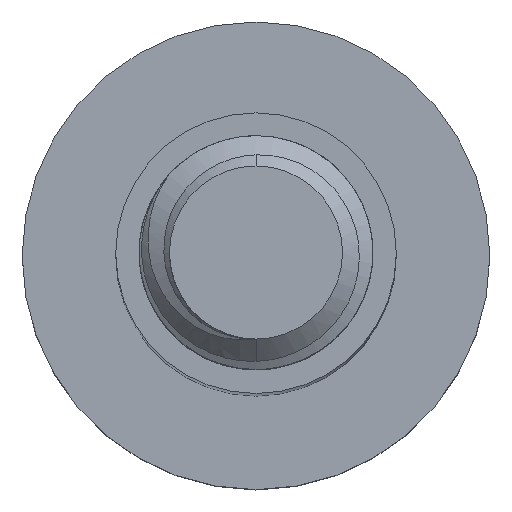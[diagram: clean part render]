
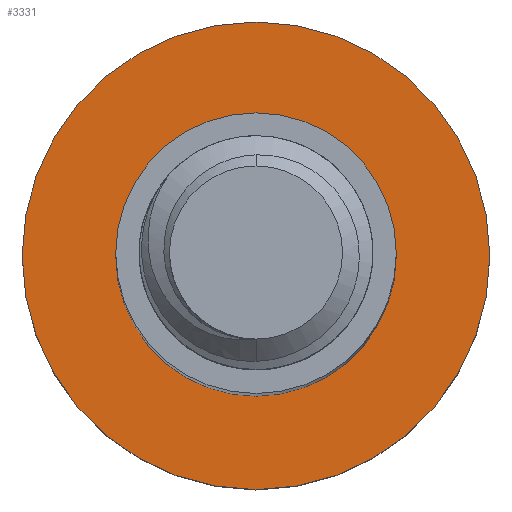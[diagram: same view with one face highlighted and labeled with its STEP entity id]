
A CAD part, top view. The second image highlights one B-rep face of the part: STEP entity #3331.
In plain terms, the highlighted planar face has unit normal (0, 0, 1).
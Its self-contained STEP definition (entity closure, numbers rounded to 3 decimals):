
#34 = CIRCLE ( 'NONE', #2852, 6. ) ;
#37 = VERTEX_POINT ( 'NONE', #1743 ) ;
#76 = ORIENTED_EDGE ( 'NONE', *, *, #1954, .F. ) ;
#117 = EDGE_LOOP ( 'NONE', ( #2365, #3020 ) ) ;
#230 = CARTESIAN_POINT ( 'NONE',  ( 0., 0., -65. ) ) ;
#293 = CARTESIAN_POINT ( 'NONE',  ( 0., 0., -65. ) ) ;
#428 = DIRECTION ( 'NONE',  ( -1., 0., 0. ) ) ;
#467 = EDGE_CURVE ( 'NONE', #624, #594, #2042, .T. ) ;
#487 = AXIS2_PLACEMENT_3D ( 'NONE', #230, #2464, #1341 ) ;
#559 = DIRECTION ( 'NONE',  ( -1., 0., 0. ) ) ;
#594 = VERTEX_POINT ( 'NONE', #2141 ) ;
#624 = VERTEX_POINT ( 'NONE', #2805 ) ;
#717 = DIRECTION ( 'NONE',  ( 0., 0., -1. ) ) ;
#766 = EDGE_LOOP ( 'NONE', ( #2712, #76 ) ) ;
#923 = CIRCLE ( 'NONE', #2300, 10. ) ;
#1015 = EDGE_CURVE ( 'NONE', #3118, #37, #34, .T. ) ;
#1207 = FACE_OUTER_BOUND ( 'NONE', #766, .T. ) ;
#1341 = DIRECTION ( 'NONE',  ( -1., 0., 0. ) ) ;
#1466 = DIRECTION ( 'NONE',  ( 0., 0., -1. ) ) ;
#1540 = CARTESIAN_POINT ( 'NONE',  ( 0., 0., -65. ) ) ;
#1609 = CIRCLE ( 'NONE', #1719, 6. ) ;
#1719 = AXIS2_PLACEMENT_3D ( 'NONE', #293, #2470, #559 ) ;
#1743 = CARTESIAN_POINT ( 'NONE',  ( -6., 0., -65. ) ) ;
#1767 = DIRECTION ( 'NONE',  ( -1., 0., 0. ) ) ;
#1954 = EDGE_CURVE ( 'NONE', #594, #624, #923, .T. ) ;
#2042 = CIRCLE ( 'NONE', #487, 10. ) ;
#2141 = CARTESIAN_POINT ( 'NONE',  ( -10., 0., -65. ) ) ;
#2252 = CARTESIAN_POINT ( 'NONE',  ( 0., 0., -65. ) ) ;
#2300 = AXIS2_PLACEMENT_3D ( 'NONE', #2252, #3033, #2490 ) ;
#2316 = PLANE ( 'NONE',  #2651 ) ;
#2365 = ORIENTED_EDGE ( 'NONE', *, *, #2657, .T. ) ;
#2392 = CARTESIAN_POINT ( 'NONE',  ( 6., 0., -65. ) ) ;
#2464 = DIRECTION ( 'NONE',  ( 0., 0., -1. ) ) ;
#2470 = DIRECTION ( 'NONE',  ( 0., 0., -1. ) ) ;
#2490 = DIRECTION ( 'NONE',  ( -1., 0., 0. ) ) ;
#2592 = FACE_BOUND ( 'NONE', #117, .T. ) ;
#2651 = AXIS2_PLACEMENT_3D ( 'NONE', #1540, #717, #428 ) ;
#2657 = EDGE_CURVE ( 'NONE', #37, #3118, #1609, .T. ) ;
#2712 = ORIENTED_EDGE ( 'NONE', *, *, #467, .F. ) ;
#2805 = CARTESIAN_POINT ( 'NONE',  ( 10., 0., -65. ) ) ;
#2852 = AXIS2_PLACEMENT_3D ( 'NONE', #3433, #1466, #1767 ) ;
#3020 = ORIENTED_EDGE ( 'NONE', *, *, #1015, .T. ) ;
#3033 = DIRECTION ( 'NONE',  ( 0., 0., -1. ) ) ;
#3118 = VERTEX_POINT ( 'NONE', #2392 ) ;
#3331 = ADVANCED_FACE ( 'NONE', ( #2592, #1207 ), #2316, .F. ) ;
#3433 = CARTESIAN_POINT ( 'NONE',  ( 0., 0., -65. ) ) ;
